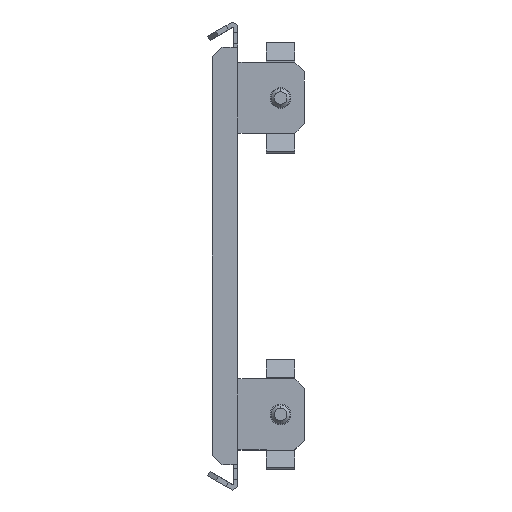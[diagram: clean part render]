
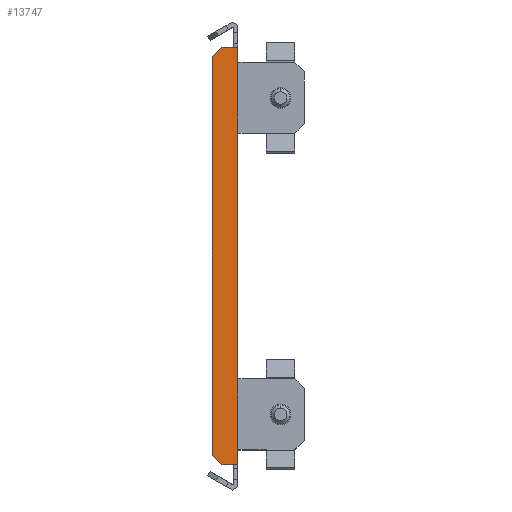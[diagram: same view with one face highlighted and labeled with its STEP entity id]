
A CAD part, front view. The second image highlights one B-rep face of the part: STEP entity #13747.
In plain terms, the highlighted planar face has unit normal (0, -1, 0).
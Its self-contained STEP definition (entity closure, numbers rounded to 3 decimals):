
#228 = ORIENTED_EDGE ( 'NONE', *, *, #8872, .T. ) ;
#348 = CARTESIAN_POINT ( 'NONE',  ( 0., -153., 65.897 ) ) ;
#590 = LINE ( 'NONE', #348, #3624 ) ;
#604 = CARTESIAN_POINT ( 'NONE',  ( 0., -153., -65.897 ) ) ;
#728 = CARTESIAN_POINT ( 'NONE',  ( -35.448, -153., 35.448 ) ) ;
#783 = EDGE_CURVE ( 'NONE', #6130, #13231, #9315, .T. ) ;
#1255 = DIRECTION ( 'NONE',  ( 1., 0., 0. ) ) ;
#1337 = CARTESIAN_POINT ( 'NONE',  ( 0., -153., -38.75 ) ) ;
#1673 = VERTEX_POINT ( 'NONE', #7349 ) ;
#1869 = VECTOR ( 'NONE', #15074, 1000. ) ;
#2016 = CARTESIAN_POINT ( 'NONE',  ( 0., -153., 0. ) ) ;
#2129 = EDGE_CURVE ( 'NONE', #9505, #3141, #10747, .T. ) ;
#2232 = ORIENTED_EDGE ( 'NONE', *, *, #14005, .T. ) ;
#2367 = VERTEX_POINT ( 'NONE', #6673 ) ;
#2462 = FACE_OUTER_BOUND ( 'NONE', #9900, .T. ) ;
#2615 = CARTESIAN_POINT ( 'NONE',  ( 0., -153., 0. ) ) ;
#2775 = DIRECTION ( 'NONE',  ( 0., 1., 0. ) ) ;
#2846 = CARTESIAN_POINT ( 'NONE',  ( 0., -153., 0. ) ) ;
#2901 = DIRECTION ( 'NONE',  ( 1., 0., 0. ) ) ;
#2929 = DIRECTION ( 'NONE',  ( 0., 0., 1. ) ) ;
#2953 = CARTESIAN_POINT ( 'NONE',  ( -2.5, -153., -65.897 ) ) ;
#2956 = VECTOR ( 'NONE', #6194, 1000. ) ;
#3063 = EDGE_CURVE ( 'NONE', #1673, #4721, #5961, .T. ) ;
#3141 = VERTEX_POINT ( 'NONE', #1337 ) ;
#3460 = CARTESIAN_POINT ( 'NONE',  ( -5., -153., -65.897 ) ) ;
#3624 = VECTOR ( 'NONE', #2901, 1000. ) ;
#3716 = CARTESIAN_POINT ( 'NONE',  ( -8., -153., 62.897 ) ) ;
#4324 = ORIENTED_EDGE ( 'NONE', *, *, #14331, .T. ) ;
#4434 = LINE ( 'NONE', #4666, #6551 ) ;
#4582 = DIRECTION ( 'NONE',  ( -1., 0., 0. ) ) ;
#4666 = CARTESIAN_POINT ( 'NONE',  ( 0., -153., 65.897 ) ) ;
#4721 = VERTEX_POINT ( 'NONE', #3460 ) ;
#4811 = ORIENTED_EDGE ( 'NONE', *, *, #7372, .T. ) ;
#5064 = CARTESIAN_POINT ( 'NONE',  ( 0., -153., -61.095 ) ) ;
#5095 = ORIENTED_EDGE ( 'NONE', *, *, #7390, .F. ) ;
#5333 = DIRECTION ( 'NONE',  ( 0., 0., 1. ) ) ;
#5783 = VECTOR ( 'NONE', #2929, 1000. ) ;
#5852 = LINE ( 'NONE', #12957, #15345 ) ;
#5961 = LINE ( 'NONE', #14744, #2956 ) ;
#6097 = VERTEX_POINT ( 'NONE', #3716 ) ;
#6130 = VERTEX_POINT ( 'NONE', #9675 ) ;
#6134 = VECTOR ( 'NONE', #10314, 1000. ) ;
#6162 = LINE ( 'NONE', #12299, #6173 ) ;
#6173 = VECTOR ( 'NONE', #11022, 1000. ) ;
#6194 = DIRECTION ( 'NONE',  ( 0.707, 0., -0.707 ) ) ;
#6439 = CARTESIAN_POINT ( 'NONE',  ( 0., -153., 61.095 ) ) ;
#6551 = VECTOR ( 'NONE', #4582, 1000. ) ;
#6673 = CARTESIAN_POINT ( 'NONE',  ( -2.5, -153., 65.897 ) ) ;
#6704 = LINE ( 'NONE', #2016, #14613 ) ;
#6818 = DIRECTION ( 'NONE',  ( 0., 0., -1. ) ) ;
#7017 = EDGE_CURVE ( 'NONE', #9104, #12112, #11379, .T. ) ;
#7349 = CARTESIAN_POINT ( 'NONE',  ( -8., -153., -62.897 ) ) ;
#7372 = EDGE_CURVE ( 'NONE', #3141, #8026, #6162, .T. ) ;
#7390 = EDGE_CURVE ( 'NONE', #2367, #12112, #590, .T. ) ;
#7447 = VECTOR ( 'NONE', #5333, 1000. ) ;
#7641 = CARTESIAN_POINT ( 'NONE',  ( 0., -153., 0. ) ) ;
#8026 = VERTEX_POINT ( 'NONE', #14122 ) ;
#8135 = DIRECTION ( 'NONE',  ( 0., 0., 1. ) ) ;
#8347 = VERTEX_POINT ( 'NONE', #11033 ) ;
#8608 = AXIS2_PLACEMENT_3D ( 'NONE', #2615, #2775, #1255 ) ;
#8872 = EDGE_CURVE ( 'NONE', #8347, #6097, #9309, .T. ) ;
#8903 = LINE ( 'NONE', #2846, #5783 ) ;
#9104 = VERTEX_POINT ( 'NONE', #6439 ) ;
#9277 = ORIENTED_EDGE ( 'NONE', *, *, #7017, .T. ) ;
#9309 = LINE ( 'NONE', #728, #1869 ) ;
#9315 = LINE ( 'NONE', #2953, #10899 ) ;
#9505 = VERTEX_POINT ( 'NONE', #5064 ) ;
#9558 = CARTESIAN_POINT ( 'NONE',  ( 0., -153., -65.897 ) ) ;
#9661 = EDGE_CURVE ( 'NONE', #4721, #6130, #11507, .T. ) ;
#9675 = CARTESIAN_POINT ( 'NONE',  ( -2.5, -153., -65.897 ) ) ;
#9722 = EDGE_CURVE ( 'NONE', #6097, #1673, #5852, .T. ) ;
#9900 = EDGE_LOOP ( 'NONE', ( #13847, #14786, #2232, #10944, #4811, #13601, #9277, #5095, #4324, #228, #11182, #10149 ) ) ;
#10149 = ORIENTED_EDGE ( 'NONE', *, *, #3063, .T. ) ;
#10314 = DIRECTION ( 'NONE',  ( 1., 0., 0. ) ) ;
#10747 = LINE ( 'NONE', #14440, #15638 ) ;
#10899 = VECTOR ( 'NONE', #14194, 1000. ) ;
#10944 = ORIENTED_EDGE ( 'NONE', *, *, #2129, .T. ) ;
#11002 = EDGE_CURVE ( 'NONE', #8026, #9104, #6704, .T. ) ;
#11022 = DIRECTION ( 'NONE',  ( 0., 0., 1. ) ) ;
#11033 = CARTESIAN_POINT ( 'NONE',  ( -5., -153., 65.897 ) ) ;
#11132 = PLANE ( 'NONE',  #8608 ) ;
#11182 = ORIENTED_EDGE ( 'NONE', *, *, #9722, .T. ) ;
#11379 = LINE ( 'NONE', #7641, #7447 ) ;
#11507 = LINE ( 'NONE', #604, #6134 ) ;
#12112 = VERTEX_POINT ( 'NONE', #13086 ) ;
#12299 = CARTESIAN_POINT ( 'NONE',  ( 0., -153., 0. ) ) ;
#12957 = CARTESIAN_POINT ( 'NONE',  ( -8., -153., 0. ) ) ;
#13086 = CARTESIAN_POINT ( 'NONE',  ( 0., -153., 65.897 ) ) ;
#13231 = VERTEX_POINT ( 'NONE', #9558 ) ;
#13601 = ORIENTED_EDGE ( 'NONE', *, *, #11002, .T. ) ;
#13747 = ADVANCED_FACE ( 'NONE', ( #2462 ), #11132, .F. ) ;
#13847 = ORIENTED_EDGE ( 'NONE', *, *, #9661, .T. ) ;
#14005 = EDGE_CURVE ( 'NONE', #13231, #9505, #8903, .T. ) ;
#14122 = CARTESIAN_POINT ( 'NONE',  ( 0., -153., 38.75 ) ) ;
#14194 = DIRECTION ( 'NONE',  ( 1., 0., 0. ) ) ;
#14331 = EDGE_CURVE ( 'NONE', #2367, #8347, #4434, .T. ) ;
#14440 = CARTESIAN_POINT ( 'NONE',  ( 0., -153., 0. ) ) ;
#14613 = VECTOR ( 'NONE', #8135, 1000. ) ;
#14744 = CARTESIAN_POINT ( 'NONE',  ( -35.448, -153., -35.448 ) ) ;
#14786 = ORIENTED_EDGE ( 'NONE', *, *, #783, .T. ) ;
#15074 = DIRECTION ( 'NONE',  ( -0.707, 0., -0.707 ) ) ;
#15345 = VECTOR ( 'NONE', #6818, 1000. ) ;
#15638 = VECTOR ( 'NONE', #15639, 1000. ) ;
#15639 = DIRECTION ( 'NONE',  ( 0., 0., 1. ) ) ;
